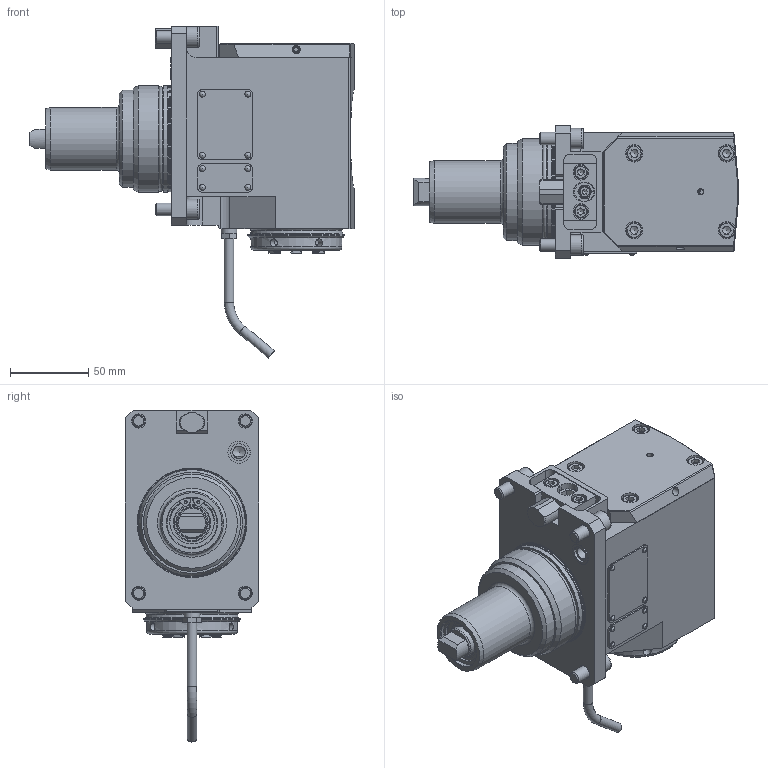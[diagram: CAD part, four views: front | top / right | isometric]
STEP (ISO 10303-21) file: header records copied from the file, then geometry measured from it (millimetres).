
FILE_DESCRIPTION(/* description */ (''),/* implementation_level */ '2;1');
FILE_NAME(/* name */ '174675',/* time_stamp */ '2020-01-16T15:17:47+01:00',/* author */ (''),/* organization */ (''),/* preprocessor_version */ 'ST-DEVELOPER v16.5',/* originating_system */ 'HiCAD 2017 2201.0 Build 268',/* authorisation */ '');
FILE_SCHEMA (('AUTOMOTIVE_DESIGN { 1 0 10303 214 1 1 1 1 }'));
Products named in the file (153): Root; Leeres Teil; 113592_RWDR HN2390 reibungsopt._322*; DIN 6885 B-8x7x14_Paßfeder DIN 6885 B-8x7x14_601*; DIN 913-M 8x20-45H_Gewindwstift DIN 913-M 8x20-45H_424*; GEWINDE; 112369_Gewindestift M5x6 Pre_422*; ѥў; 113260_Spindellager B71909E_302*; 002_000X; 114934_Passscheibe 25x35x2_441*; 112977_Spannmutter ER32 HI_QERAX_340*; DIN 13-M40x1,5; 00092460_450*; 001_000X_270*; DIN 13-M72x1; KUGEL_0_350*; 194459_Kegelrad rechts m1.5 z26; 194460_Kegelrad links m1.5 z26; DIN 76-M4; 001_000X_110*; DIN 13-M25x1; ROTATIONSTEIL_0_150*; DIN 76-M5; DIN 76-M8; 001_000X_600*; 001_000X_130*; DIN 13-M20x1; 00087057_240*; DIN 13-M50x1; ROTATIONSTEIL_0_451*; 00086945_360*; 113332_Schräg.Zweir. 3005.2Z_300*; 186336_Passcheibe_440*; 178257_Rillenkugellager 61804.2RS_320*; 189575_Wellendichtring G20x26x4Vi_325*; DIN 472_Sicherungsring / Nut_455*; 00038961_280*; DIN 13-M65x1; ROTATIONSTEIL_0_100*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
Assembly tree (152 placements, depth 8):
  Root
    Leeres Teil
      Leeres Teil
        Leeres Teil
          113592_RWDR HN2390 reibungsopt._322*
          DIN 6885 B-8x7x14_Paßfeder DIN 6885 B-8x7x14_601*
          DIN 913-M 8x20-45H_Gewindwstift DIN 913-M 8x20-45H_424*
            GEWINDE
          112369_Gewindestift M5x6 Pre_422*
            ѥў
          113260_Spindellager B71909E_302*
            002_000X
            002_000X
          113260_Spindellager B71909E_302*
            002_000X
            002_000X
          114934_Passscheibe 25x35x2_441*
          112977_Spannmutter ER32 HI_QERAX_340*
            DIN 13-M40x1,5
        Leeres Teil
          00092460_450*
          001_000X_270*
            DIN 13-M72x1
          KUGEL_0_350*
            194459_Kegelrad rechts m1.5 z26
            194460_Kegelrad links m1.5 z26
              DIN 76-M4
          001_000X_110*
            DIN 13-M25x1
          ROTATIONSTEIL_0_150*
            DIN 13-M25x1
            DIN 76-M5
            DIN 13-M40x1,5
            DIN 76-M8
      Leeres Teil
        Leeres Teil
          001_000X_600*
          001_000X_130*
            DIN 13-M20x1
          00087057_240*
            DIN 13-M50x1
          ROTATIONSTEIL_0_451*
          00086945_360*
            DIN 13-M20x1
        Leeres Teil
          113332_Schräg.Zweir. 3005.2Z_300*
            002_000X
            002_000X
            002_000X
            002_000X
          186336_Passcheibe_440*
          178257_Rillenkugellager 61804.2RS_320*
            002_000X
            002_000X
          189575_Wellendichtring G20x26x4Vi_325*
          DIN 472_Sicherungsring / Nut_455*
      Leeres Teil
        Leeres Teil
          00038961_280*
            DIN 13-M65x1
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Bounding box: 206.75 x 85 x 211.85 mm (x, y, z)
Volume: 987656.3 mm3; surface area: 357536.1 mm2
Topology: 137 solids, 137 shells, 1760 faces, 4182 edges, 2720 vertices
Faces by surface type: plane 794, cylinder 553, cone 260, torus 134, sphere 19
Full cylindrical faces by diameter (mm): 2 x18, 2.1 x4, 2.2 x8, 2.5 x1, 3.1 x6, 3.141 x8, 3.3 x5, 4 x15, 4.019 x8, 4.1 x6, 4.2 x10, 4.5 x1, 4.773 x16, 5 x35, 5.1 x6, 5.3 x1, 6 x33, 6.1 x1, 6.25 x1, 6.466 x10, 6.6 x4, 6.8 x2, 7 x1, 7.6 x1, 7.8 x2, 8 x18, 8.5 x2, 8.773 x2, 8.8 x1, 8.92 x1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
Entity records: 89338 total; most frequent: CARTESIAN_POINT 19766, DIRECTION 8348, PRESENTATION_STYLE_ASSIGNMENT 6205, ORIENTED_EDGE 6090, COLOUR_RGB 6083, DRAUGHTING_PRE_DEFINED_CURVE_FONT 6082, CURVE_STYLE 6082, OVER_RIDING_STYLED_ITEM 6082
